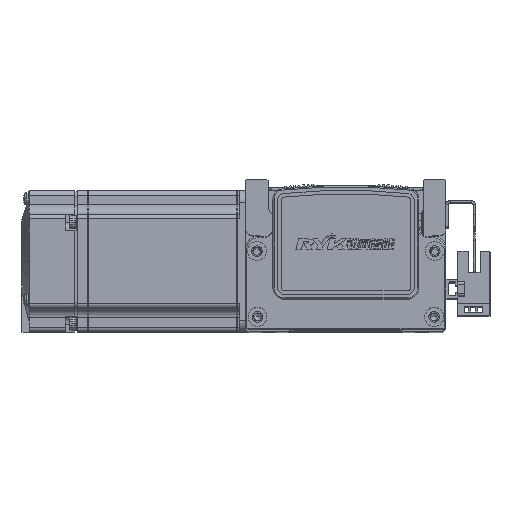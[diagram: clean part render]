
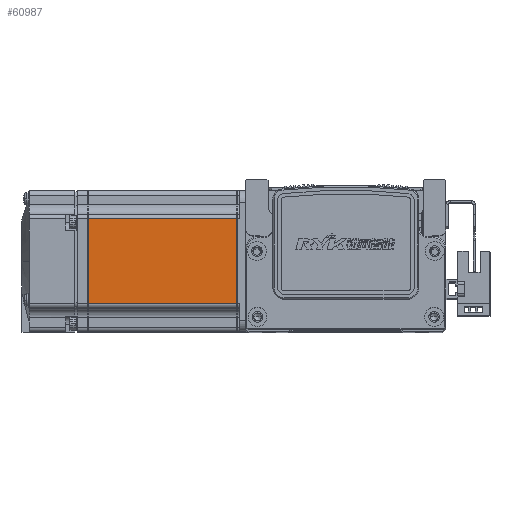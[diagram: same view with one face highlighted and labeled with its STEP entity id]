
A CAD part, top view. The second image highlights one B-rep face of the part: STEP entity #60987.
In plain terms, the highlighted planar face has unit normal (0, 0, 1) as drawn and (0, 0, -1) by its records, which use the part's own axes.
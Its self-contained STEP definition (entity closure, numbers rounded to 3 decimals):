
#4652 = VERTEX_POINT ( 'NONE', #71209 ) ;
#4662 = VERTEX_POINT ( 'NONE', #71213 ) ;
#4664 = VERTEX_POINT ( 'NONE', #71214 ) ;
#4679 = VERTEX_POINT ( 'NONE', #20635 ) ;
#6793 = EDGE_CURVE ( 'NONE', #4664, #4662, #12056, .T. ) ;
#6820 = EDGE_CURVE ( 'NONE', #4679, #4652, #12090, .T. ) ;
#6824 = EDGE_CURVE ( 'NONE', #4662, #4679, #12099, .T. ) ;
#6837 = EDGE_CURVE ( 'NONE', #4652, #4664, #12285, .T. ) ;
#11948 = VECTOR ( 'NONE', #21649, 1000. ) ;
#12056 = LINE ( 'NONE', #21662, #11948 ) ;
#12090 = LINE ( 'NONE', #21736, #12091 ) ;
#12091 = VECTOR ( 'NONE', #21716, 1000. ) ;
#12099 = LINE ( 'NONE', #21734, #12139 ) ;
#12139 = VECTOR ( 'NONE', #21745, 1000. ) ;
#12191 = VECTOR ( 'NONE', #21773, 1000. ) ;
#12285 = LINE ( 'NONE', #21763, #12191 ) ;
#13079 = EDGE_LOOP ( 'NONE', ( #24967, #24965, #25014, #24973 ) ) ;
#20635 = CARTESIAN_POINT ( 'NONE',  ( -7.75, 18., -30. ) ) ;
#21649 = DIRECTION ( 'NONE',  ( 0., 1., 0. ) ) ;
#21662 = CARTESIAN_POINT ( 'NONE',  ( -70.95, 25., -30. ) ) ;
#21716 = DIRECTION ( 'NONE',  ( 0., -1., 0. ) ) ;
#21734 = CARTESIAN_POINT ( 'NONE',  ( -6.5, 18., -30. ) ) ;
#21736 = CARTESIAN_POINT ( 'NONE',  ( -7.75, 25., -30. ) ) ;
#21745 = DIRECTION ( 'NONE',  ( 1., 0., 0. ) ) ;
#21763 = CARTESIAN_POINT ( 'NONE',  ( -6.5, -18., -30. ) ) ;
#21773 = DIRECTION ( 'NONE',  ( -1., 0., 0. ) ) ;
#24965 = ORIENTED_EDGE ( 'NONE', *, *, #6837, .T. ) ;
#24967 = ORIENTED_EDGE ( 'NONE', *, *, #6820, .T. ) ;
#24973 = ORIENTED_EDGE ( 'NONE', *, *, #6824, .T. ) ;
#25014 = ORIENTED_EDGE ( 'NONE', *, *, #6793, .T. ) ;
#50068 = PLANE ( 'NONE',  #50887 ) ;
#50134 = DIRECTION ( 'NONE',  ( -1., 0., 0. ) ) ;
#50143 = CARTESIAN_POINT ( 'NONE',  ( -6.5, 25., -30. ) ) ;
#50144 = DIRECTION ( 'NONE',  ( 0., 0., -1. ) ) ;
#50887 = AXIS2_PLACEMENT_3D ( 'NONE', #50143, #50144, #50134 ) ;
#60987 = ADVANCED_FACE ( 'NONE', ( #68708 ), #50068, .T. ) ;
#68708 = FACE_OUTER_BOUND ( 'NONE', #13079, .T. ) ;
#71209 = CARTESIAN_POINT ( 'NONE',  ( -7.75, -18., -30. ) ) ;
#71213 = CARTESIAN_POINT ( 'NONE',  ( -70.95, 18., -30. ) ) ;
#71214 = CARTESIAN_POINT ( 'NONE',  ( -70.95, -18., -30. ) ) ;
